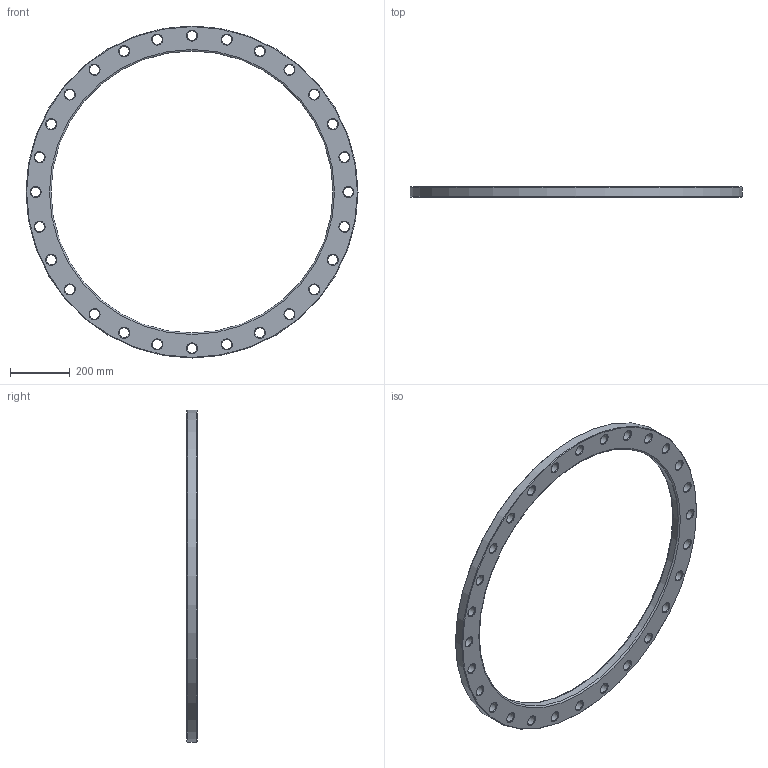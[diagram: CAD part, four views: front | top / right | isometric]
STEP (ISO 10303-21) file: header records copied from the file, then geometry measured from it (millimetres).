
FILE_DESCRIPTION(/* description */ ('Unknown'),/* implementation_level */ '2;1');
FILE_NAME(/* name */ 'FZ900B',/* time_stamp */ '2021-03-15T11:08:43+01:00',/* author */ ('Unknown'),/* organization */ ('Unknown'),/* preprocessor_version */ 'ST-DEVELOPER v16.7',/* originating_system */ 'Solid Edge',/* authorisation */ 'Unknown');
FILE_SCHEMA (('AUTOMOTIVE_DESIGN {1 0 10303 214 3 1 1}'));
Length unit declared in the file: millimetre
Products named in the file (1): FZ900B
Bounding box: 1115 x 34 x 1115 mm (x, y, z)
Volume: 8378214.9 mm3; surface area: 787723.9 mm2
Topology: 1 solids, 1 shells, 92 faces, 294 edges, 204 vertices
Faces by surface type: cone 58, cylinder 30, plane 2, torus 2
Full cylindrical faces by diameter (mm): 33 x28, 947 x1, 1115 x1
Entity records: 2270 total; most frequent: DIRECTION 426, CARTESIAN_POINT 333, ORIENTED_EDGE 240, EDGE_LOOP 240, FACE_BOUND 240, AXIS2_PLACEMENT_3D 213, EDGE_CURVE 120, VERTEX_POINT 120
